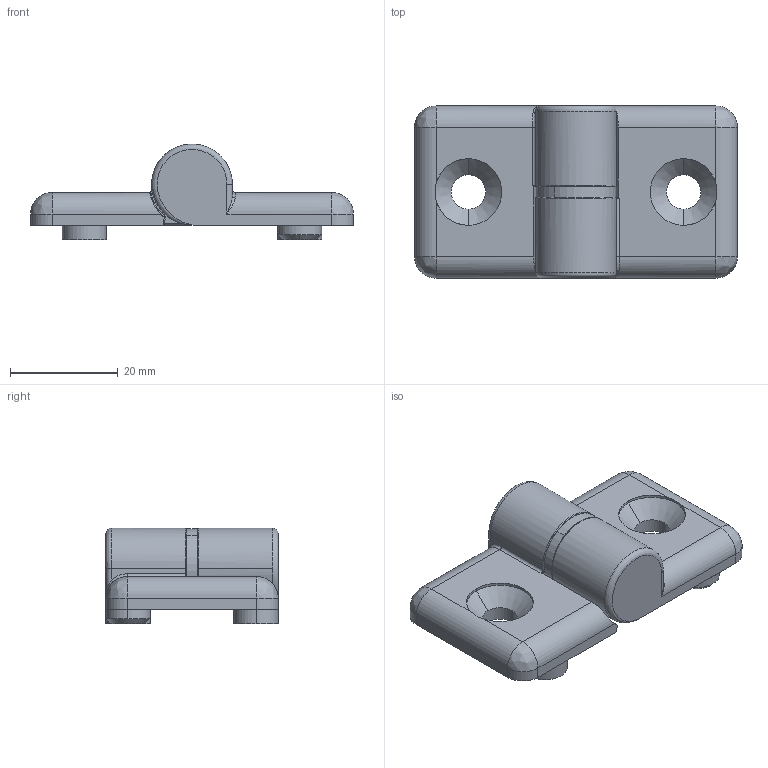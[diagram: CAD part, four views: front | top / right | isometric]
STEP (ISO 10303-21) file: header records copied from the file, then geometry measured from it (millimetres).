
FILE_DESCRIPTION (( 'STEP AP203' ), '1' );
FILE_NAME ('10471_SCHPAREC.STEP', '2018-03-30T07:01:51', ( '' ), ( '' ), 'SwSTEP 2.0', 'SolidWorks 2017', '' );
FILE_SCHEMA (( 'CONFIG_CONTROL_DESIGN' ));
Length unit declared in the file: millimetre
Products named in the file (1): 10471_SCHPAREC
Bounding box: 60 x 32 x 17.8 mm (x, y, z)
Volume: 13348.2 mm3; surface area: 8672.8 mm2
Topology: 4 solids, 10 shells, 174 faces, 396 edges, 240 vertices
Faces by surface type: cylinder 80, plane 62, bspline 18, cone 14
Entity records: 5837 total; most frequent: CARTESIAN_POINT 1899, DIRECTION 840, ORIENTED_EDGE 776, EDGE_CURVE 388, AXIS2_PLACEMENT_3D 331, VERTEX_POINT 240, EDGE_LOOP 186, LINE 178
